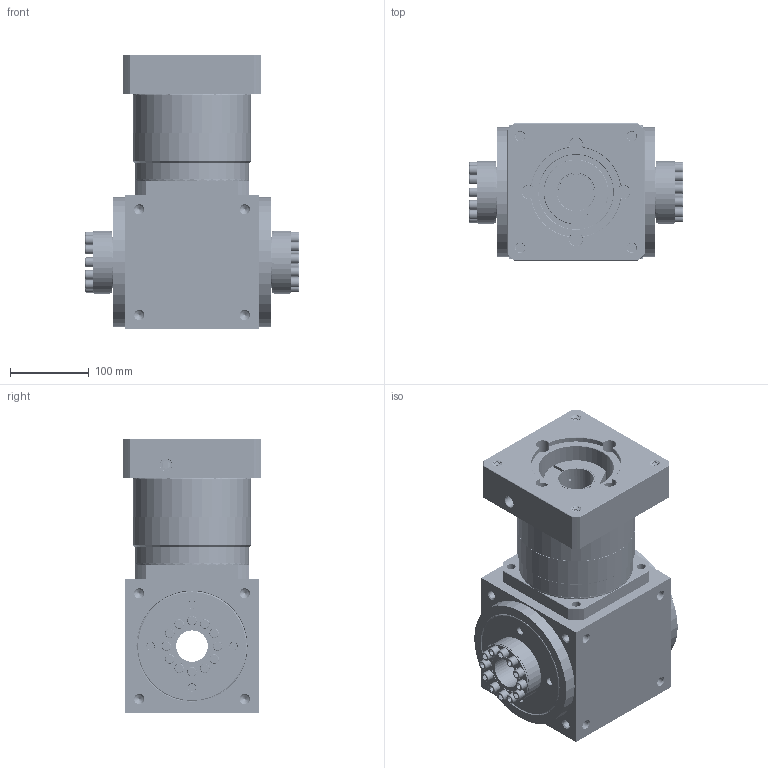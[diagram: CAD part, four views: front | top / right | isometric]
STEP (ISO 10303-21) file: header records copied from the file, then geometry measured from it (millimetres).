
FILE_DESCRIPTION (( 'STEP AP203' ), '1' );
FILE_NAME ('LAT170-LAB142-C-ZJ2-50-80.STEP', '2025-01-15T07:01:09', ( '微软用户' ), ( '微软中国' ), 'SwSTEP 2.0', 'SolidWorks 2022', '' );
FILE_SCHEMA (( 'CONFIG_CONTROL_DESIGN' ));
Products named in the file (1): LAT170-LAB142-C-ZJ2-50-80
Bounding box: 271 x 174 x 348 mm (x, y, z)
Volume: 7629228 mm3; surface area: 860020.1 mm2
Topology: 42 solids, 42 shells, 2268 faces, 5793 edges, 3663 vertices
Faces by surface type: cylinder 1240, plane 452, cone 406, bspline 111, torus 59
Entity records: 146676 total; most frequent: CARTESIAN_POINT 95910, ORIENTED_EDGE 11506, DIRECTION 9856, EDGE_CURVE 5753, AXIS2_PLACEMENT_3D 3763, VERTEX_POINT 3663, EDGE_LOOP 2570, VECTOR 2330
